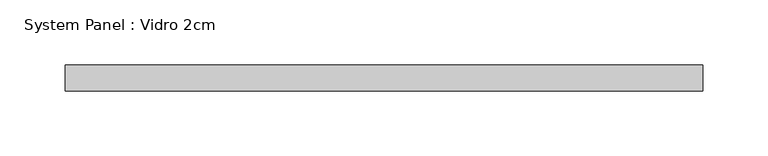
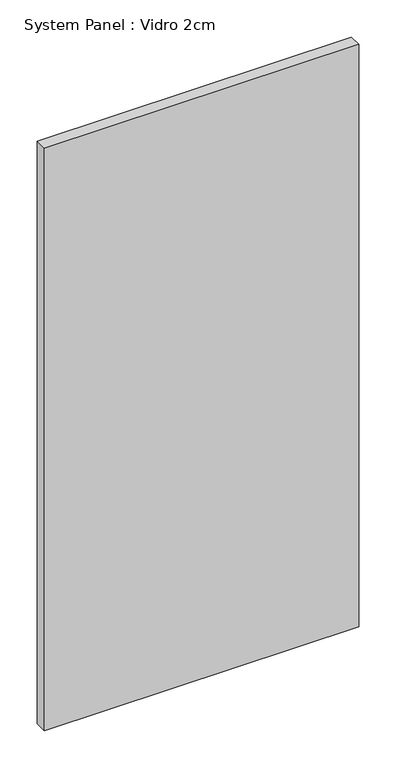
"""IFC4 building model written with IfcOpenShell, lengths in millimetres: plate geometry, System Panel : Vidro 2cm."""

from ifc_helpers import new_model, si_unit, origin, origin_with_axes, place, context, project, spatial, polyline, outline, extrude, source, transform, mapped, element, save


def system_panel_vidro_2cm_738b5aa9(model_context):
    return source(origin(), model_context, "Body", "SweptSolid", [
        extrude(outline(polyline([(245.0, 0.0), (-245.0, 0.0), (-245.0, 20.0), (245.0, 20.0), (245.0, 0.0)])), origin_with_axes(), (0.0, 0.0, 1.0), 960.0),
    ])


if __name__ == "__main__":
    model = new_model("IFC4")
    model_context = context("Model", 3, world=origin())
    ifc_project = project(units=[si_unit("LENGTHUNIT", "METRE", prefix="MILLI")], contexts=[model_context])
    site = spatial("IfcSite", under=ifc_project)
    building = spatial("IfcBuilding", under=site)
    placement = place(None, origin())
    system_panel_vidro_2cm_shape = system_panel_vidro_2cm_738b5aa9(model_context)
    element("IfcPlate", 1, ObjectType="System Panel : Vidro 2cm", at=placement, inside=building, context=model_context, shape_type="MappedRepresentation", body=[
        mapped(system_panel_vidro_2cm_shape, transform((0.0, 0.0, 0.0), x_axis=(1.0, 0.0, 0.0), y_axis=(0.0, 1.0, 0.0), z_axis=(0.0, 0.0, 1.0))),
    ])
    save(model, "model.ifc")
